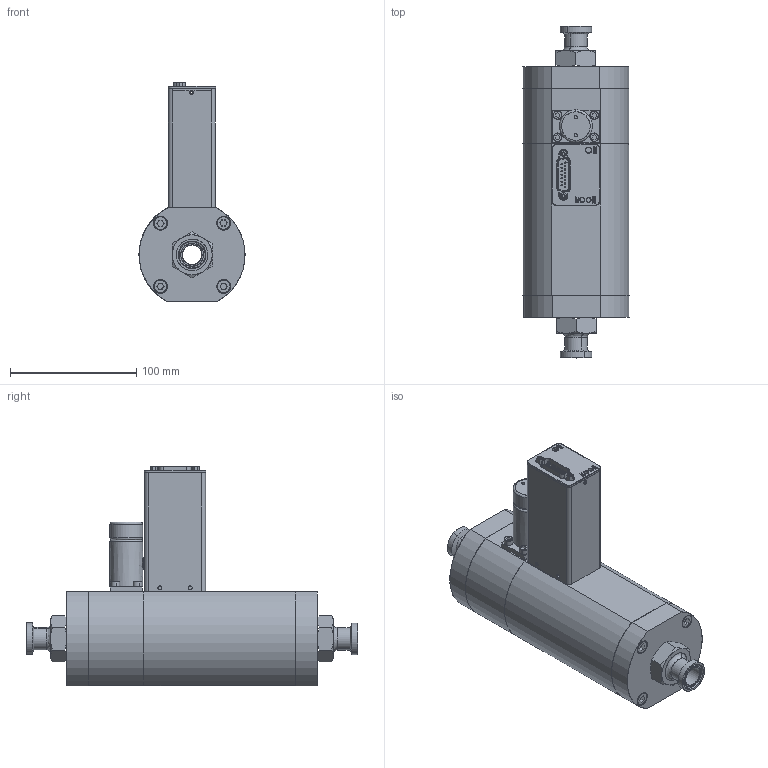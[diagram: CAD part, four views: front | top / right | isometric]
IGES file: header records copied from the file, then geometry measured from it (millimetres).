
Start section: SolidWorks IGES file using analytic representation for surfaces
Global section: file name: G:\Engineering\CAD MODELS FOR SALES\CAD MODEL STORAGE\SLA\SLA5853\IGES\SLA5853-S-5D-3-C-REVB.IGS; native system: SolidWorks 2017; preprocessor: SolidWorks 2017; author: SBizzarro; date: 181212.121132; units: inch
Bounding box: 84.21 x 263.32 x 174.47 mm (x, y, z)
Surface area: 129829 mm2 (no closed solid volume)
Topology: 0 solids, 0 shells, 579 faces, 8232 edges, 8232 vertices
Faces by surface type: bspline 296, revolution 283
